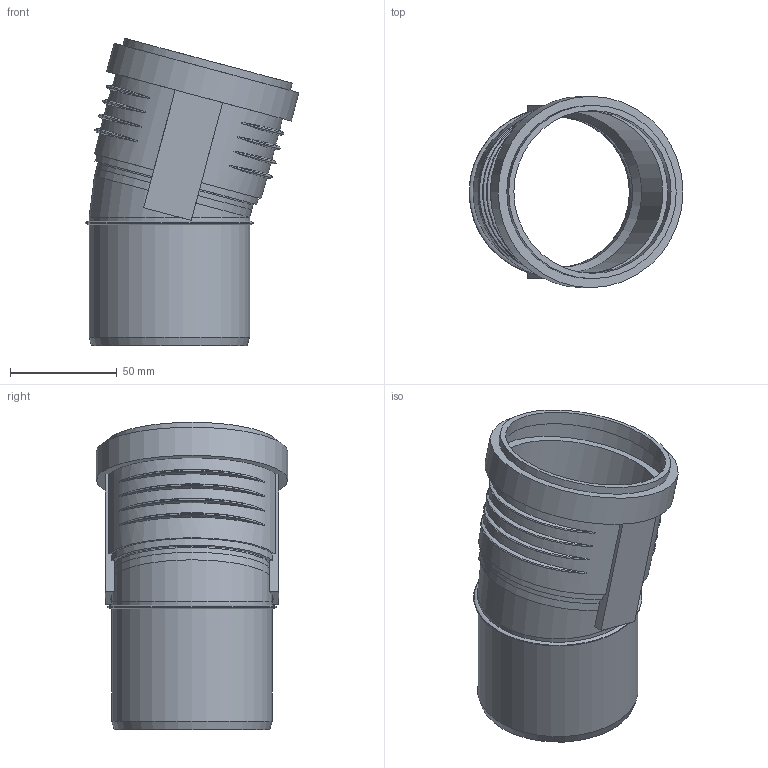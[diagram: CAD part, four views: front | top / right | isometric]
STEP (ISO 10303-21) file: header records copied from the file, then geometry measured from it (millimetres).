
FILE_DESCRIPTION(/* description */ (''),/* implementation_level */ '2;1');
FILE_NAME(/* name */ 'Z:\Geberit\Export\NewStep\390320.stp',/* time_stamp */ '2014-04-02T08:11:32+02:00',/* author */ ('ML'),/* organization */ (''),/* preprocessor_version */ 'ST-DEVELOPER v15.2',/* originating_system */ 'Autodesk Inventor 2014',/* authorisation */ '');
FILE_SCHEMA (('AUTOMOTIVE_DESIGN { 1 0 10303 214 3 1 1 }'));
Length unit declared in the file: millimetre
Products named in the file (3): 861326; 861402; 390320
Bounding box: 100.17 x 89.6 x 143.92 mm (x, y, z)
Volume: 85759.5 mm3; surface area: 77301.9 mm2
Topology: 2 solids, 2 shells, 68 faces, 162 edges, 109 vertices
Faces by surface type: torus 28, plane 19, cylinder 18, cone 2, bspline 1
Full cylindrical faces by diameter (mm): 70.2 x1, 71.2 x2, 75.2 x4, 76.2 x2, 81.2 x1, 84.6 x1, 89.6 x1
Entity records: 2726 total; most frequent: CARTESIAN_POINT 1150, DIRECTION 290, ORIENTED_EDGE 278, EDGE_CURVE 139, AXIS2_PLACEMENT_3D 127, VERTEX_POINT 106, EDGE_LOOP 103, STYLED_ITEM 70
